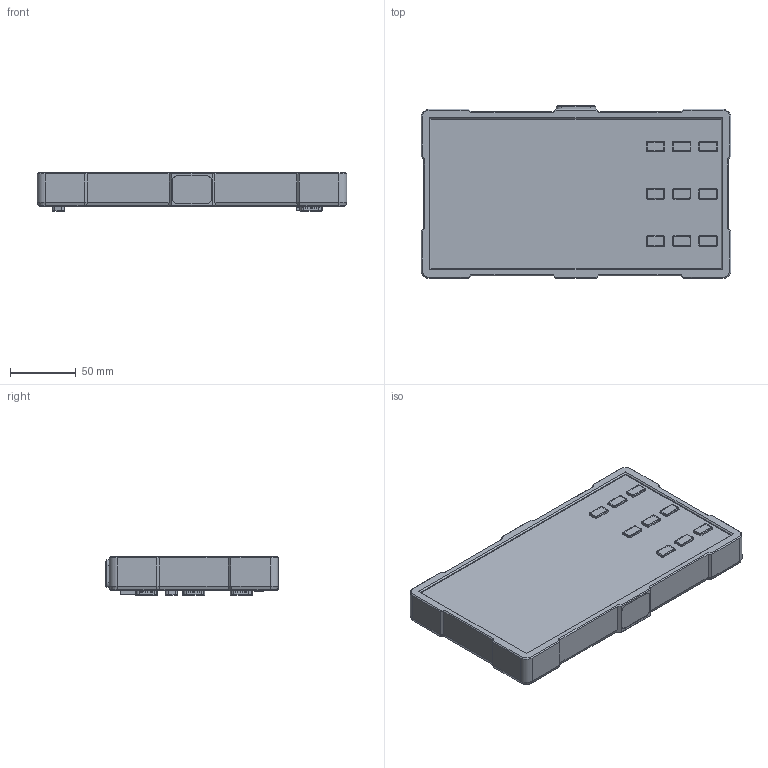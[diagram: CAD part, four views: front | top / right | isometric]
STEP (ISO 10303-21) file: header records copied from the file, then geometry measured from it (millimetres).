
FILE_DESCRIPTION(/* description */ (''),/* implementation_level */ '2;1');
FILE_NAME(/* name */ 'PREDVADECI GUMA.step',/* time_stamp */ '2023-11-14T16:19:35+01:00',/* author */ (''),/* organization */ (''),/* preprocessor_version */ 'ST-DEVELOPER v20',/* originating_system */ 'Autodesk Translation Framework v12.14.0.127',/* authorisation */ '');
FILE_SCHEMA (('AUTOMOTIVE_DESIGN { 1 0 10303 214 3 1 1 }'));
Products named in the file (1): PREDVADECI GUMA
Bounding box: 235.8 x 131.6 x 29.12 mm (x, y, z)
Volume: 664781.6 mm3; surface area: 105902.2 mm2
Topology: 1 solids, 23 shells, 2922 faces, 7344 edges, 4612 vertices
Faces by surface type: plane 1023, cylinder 898, bspline 631, torus 238, sphere 112, cone 20
Full cylindrical faces by diameter (mm): 0.84 x36, 1.04 x36, 1.14 x36, 2.2 x16, 3 x8, 5.035 x3, 5.6 x4, 6.147 x1
Entity records: 127694 total; most frequent: CARTESIAN_POINT 61618, ORIENTED_EDGE 14496, DIRECTION 12512, EDGE_CURVE 7248, VERTEX_POINT 4612, AXIS2_PLACEMENT_3D 4544, LINE 3424, VECTOR 3424
